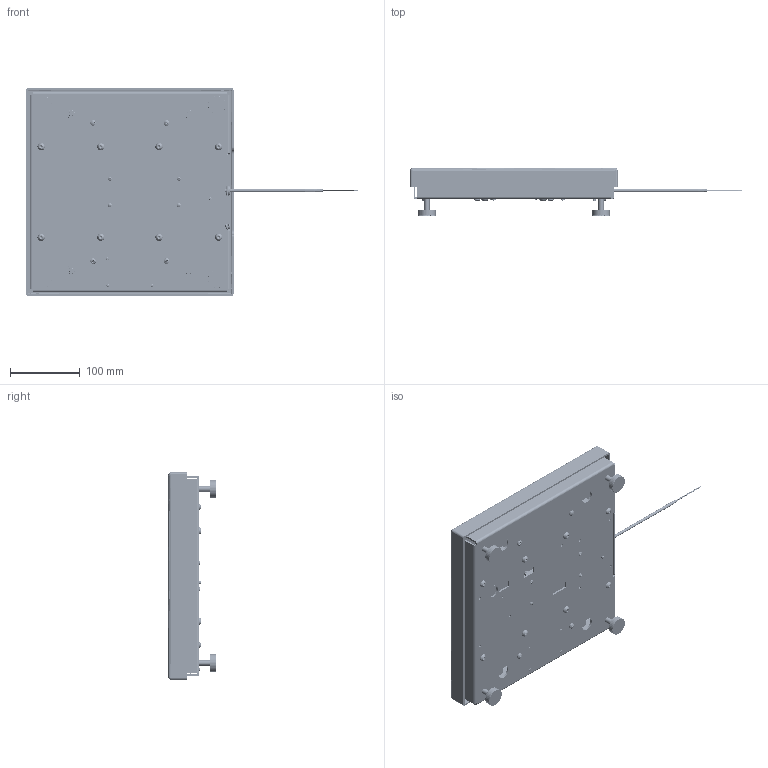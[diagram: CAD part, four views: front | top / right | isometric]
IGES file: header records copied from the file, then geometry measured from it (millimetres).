
Start section: SolidWorks IGES file using analytic representation for surfaces
Global section: file name: C:\0_Work\SolidWorks\~0_E-Scales\12x12\HI1212SBA-130.IGS; native system: SolidWorks 2017; preprocessor: SolidWorks 2017; author: vach01; date: 190822.081638; units: inch
Bounding box: 477 x 68.17 x 298.19 mm (x, y, z)
Surface area: 642958.9 mm2 (no closed solid volume)
Topology: 0 solids, 0 shells, 11747 faces, 108202 edges, 108140 vertices
Faces by surface type: bspline 8727, revolution 3020
